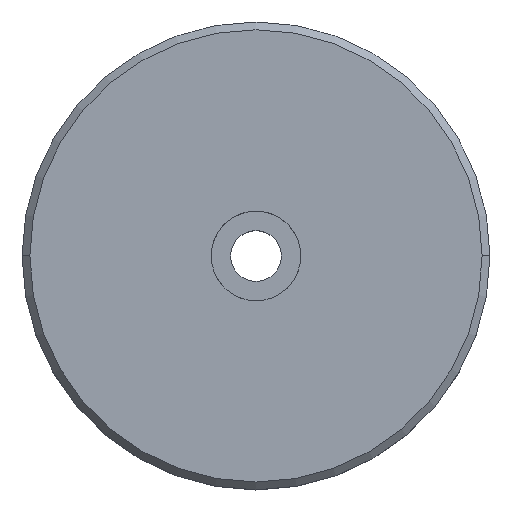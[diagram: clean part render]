
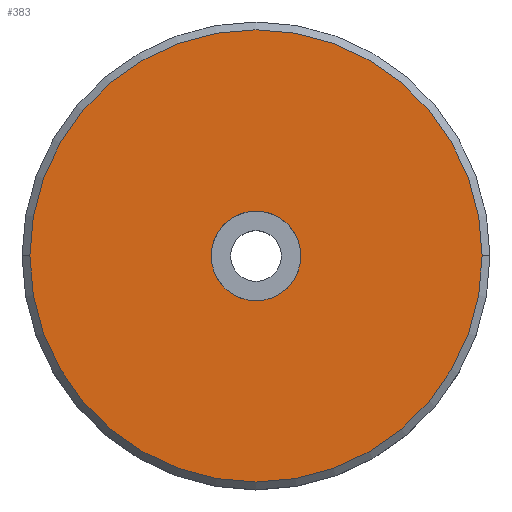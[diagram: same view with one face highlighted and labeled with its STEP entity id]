
A CAD part, top view. The second image highlights one B-rep face of the part: STEP entity #383.
In plain terms, the highlighted planar face has unit normal (0, 0, 1).
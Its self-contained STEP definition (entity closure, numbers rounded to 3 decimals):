
#247=CARTESIAN_POINT('Vertex',(58.,0.,30.)) ;
#250=CARTESIAN_POINT('Axis2P3D Location',(0.,0.,30.)) ;
#254=CARTESIAN_POINT('Vertex',(-58.,0.,30.)) ;
#274=CARTESIAN_POINT('Axis2P3D Location',(0.,0.,30.)) ;
#356=CARTESIAN_POINT('Axis2P3D Location',(0.,0.,30.)) ;
#365=CARTESIAN_POINT('Axis2P3D Location',(0.,0.,30.)) ;
#369=CARTESIAN_POINT('Vertex',(11.5,0.,30.)) ;
#371=CARTESIAN_POINT('Vertex',(-11.5,0.,30.)) ;
#374=CARTESIAN_POINT('Axis2P3D Location',(0.,0.,30.)) ;
#251=DIRECTION('Axis2P3D Direction',(0.,0.,-1.)) ;
#275=DIRECTION('Axis2P3D Direction',(0.,0.,-1.)) ;
#357=DIRECTION('Axis2P3D Direction',(0.,0.,1.)) ;
#358=DIRECTION('Axis2P3D XDirection',(1.,0.,0.)) ;
#366=DIRECTION('Axis2P3D Direction',(0.,0.,1.)) ;
#375=DIRECTION('Axis2P3D Direction',(0.,0.,1.)) ;
#252=AXIS2_PLACEMENT_3D('Circle Axis2P3D',#250,#251,$) ;
#276=AXIS2_PLACEMENT_3D('Circle Axis2P3D',#274,#275,$) ;
#359=AXIS2_PLACEMENT_3D('Plane Axis2P3D',#356,#357,#358) ;
#367=AXIS2_PLACEMENT_3D('Circle Axis2P3D',#365,#366,$) ;
#376=AXIS2_PLACEMENT_3D('Circle Axis2P3D',#374,#375,$) ;
#362=ORIENTED_EDGE('',*,*,#256,.T.) ;
#363=ORIENTED_EDGE('',*,*,#278,.T.) ;
#380=ORIENTED_EDGE('',*,*,#373,.F.) ;
#381=ORIENTED_EDGE('',*,*,#378,.F.) ;
#382=FACE_BOUND('',#379,.T.) ;
#383=ADVANCED_FACE('NONE',(#364,#382),#360,.T.) ;
#253=CIRCLE('generated circle',#252,58.) ;
#277=CIRCLE('generated circle',#276,58.) ;
#368=CIRCLE('generated circle',#367,11.5) ;
#377=CIRCLE('generated circle',#376,11.5) ;
#256=EDGE_CURVE('',#255,#248,#253,.F.) ;
#278=EDGE_CURVE('',#248,#255,#277,.F.) ;
#373=EDGE_CURVE('',#370,#372,#368,.T.) ;
#378=EDGE_CURVE('',#372,#370,#377,.T.) ;
#361=EDGE_LOOP('',(#362,#363)) ;
#379=EDGE_LOOP('',(#380,#381)) ;
#364=FACE_OUTER_BOUND('',#361,.T.) ;
#360=PLANE('Plane',#359) ;
#248=VERTEX_POINT('',#247) ;
#255=VERTEX_POINT('',#254) ;
#370=VERTEX_POINT('',#369) ;
#372=VERTEX_POINT('',#371) ;
